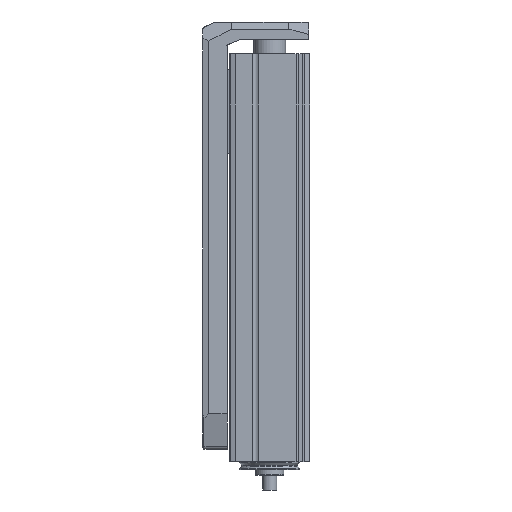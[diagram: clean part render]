
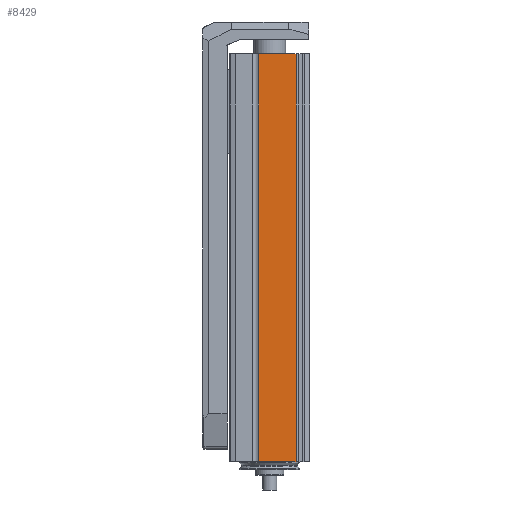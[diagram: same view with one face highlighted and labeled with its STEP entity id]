
A CAD part, left-side view. The second image highlights one B-rep face of the part: STEP entity #8429.
In plain terms, the highlighted planar face has unit normal (-1, 0, 0) as drawn and (0, 0, 1) by its records, which use the part's own axes.
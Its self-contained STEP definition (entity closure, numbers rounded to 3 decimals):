
#773=LINE('',#13561,#1303);
#789=LINE('',#13607,#1319);
#790=LINE('',#13611,#1320);
#791=LINE('',#13613,#1321);
#1303=VECTOR('',#10859,1000.);
#1319=VECTOR('',#10905,1000.);
#1320=VECTOR('',#10910,1000.);
#1321=VECTOR('',#10911,1000.);
#2647=ORIENTED_EDGE('',*,*,#4217,.T.);
#2648=ORIENTED_EDGE('',*,*,#4242,.F.);
#2649=ORIENTED_EDGE('',*,*,#4243,.F.);
#2650=ORIENTED_EDGE('',*,*,#4240,.T.);
#4217=EDGE_CURVE('',#5077,#5076,#773,.T.);
#4240=EDGE_CURVE('',#5092,#5077,#789,.T.);
#4242=EDGE_CURVE('',#5093,#5076,#790,.T.);
#4243=EDGE_CURVE('',#5092,#5093,#791,.T.);
#5076=VERTEX_POINT('',#13560);
#5077=VERTEX_POINT('',#13562);
#5092=VERTEX_POINT('',#13608);
#5093=VERTEX_POINT('',#13612);
#6009=EDGE_LOOP('',(#2647,#2648,#2649,#2650));
#6621=FACE_BOUND('',#6009,.T.);
#6947=PLANE('',#9134);
#8429=ADVANCED_FACE('',(#6621),#6947,.F.);
#9134=AXIS2_PLACEMENT_3D('',#13610,#10908,#10909);
#10859=DIRECTION('',(0.,-1.,0.));
#10905=DIRECTION('',(-1.,0.,0.));
#10908=DIRECTION('',(0.,0.,-1.));
#10909=DIRECTION('',(-1.,0.,0.));
#10910=DIRECTION('',(-1.,0.,0.));
#10911=DIRECTION('',(0.,-1.,0.));
#13560=CARTESIAN_POINT('',(0.,-6.3,22.5));
#13561=CARTESIAN_POINT('',(0.,14.82,22.5));
#13562=CARTESIAN_POINT('',(0.,14.82,22.5));
#13607=CARTESIAN_POINT('',(230.,14.82,22.5));
#13608=CARTESIAN_POINT('',(230.,14.82,22.5));
#13610=CARTESIAN_POINT('',(230.,14.82,22.5));
#13611=CARTESIAN_POINT('',(230.,-6.3,22.5));
#13612=CARTESIAN_POINT('',(230.,-6.3,22.5));
#13613=CARTESIAN_POINT('',(230.,14.82,22.5));
